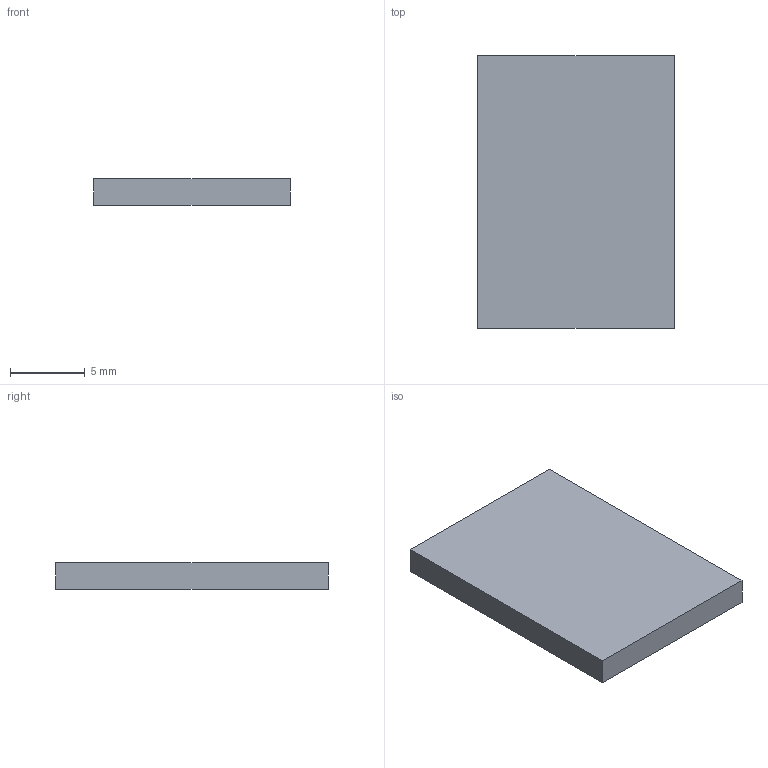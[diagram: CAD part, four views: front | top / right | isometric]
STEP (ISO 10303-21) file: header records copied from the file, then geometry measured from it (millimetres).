
FILE_DESCRIPTION(('Open CASCADE Model'),'2;1');
FILE_NAME('Open CASCADE Shape Model','2026-10-06T03:35:42',('Author'),( 'Open CASCADE'),'Open CASCADE STEP processor 7.8','Open CASCADE 7.8' ,'Unknown');
FILE_SCHEMA(('AUTOMOTIVE_DESIGN { 1 0 10303 214 1 1 1 1 }'));
Length unit declared in the file: millimetre
Products named in the file (1): Open CASCADE STEP translator 7.8 23
Bounding box: 13.2 x 18.3 x 1.8 mm (x, y, z)
Volume: 434.8 mm3; surface area: 596.5 mm2
Topology: 1 solids, 1 shells, 6 faces, 12 edges, 8 vertices
Faces by surface type: plane 6
Entity records: 322 total; most frequent: CARTESIAN_POINT 51, DIRECTION 50, LINE 36, VECTOR 36, ORIENTED_EDGE 24, PCURVE 24, DEFINITIONAL_REPRESENTATION 24, EDGE_CURVE 12
